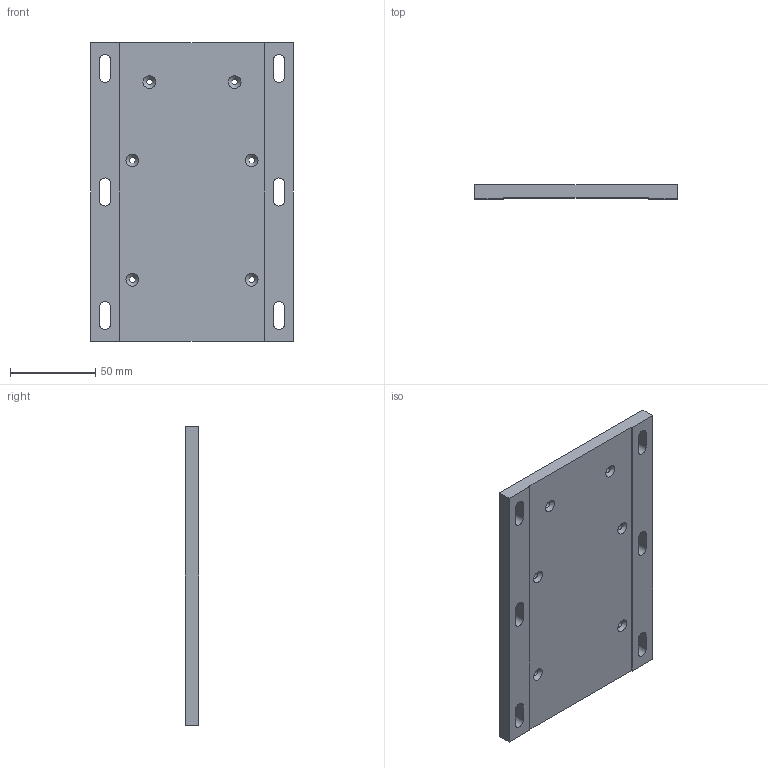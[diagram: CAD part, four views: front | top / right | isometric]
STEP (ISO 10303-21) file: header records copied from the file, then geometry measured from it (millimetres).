
FILE_DESCRIPTION(/* description */ (''),/* implementation_level */ '2;1');
FILE_NAME(/* name */ 'C:\Users\strothej\Documents\ActualDocuments\MicroscopeParts\TwoPhotonSystem\ScanningMechanics\v32\Drawings\Projection_Base_Plate.stp',/* time_stamp */ '2017-07-26T15:39:10-07:00',/* author */ ('strothej'),/* organization */ (''),/* preprocessor_version */ 'ST-DEVELOPER v16.1',/* originating_system */ 'Autodesk Inventor 2016',/* authorisation */ '');
FILE_SCHEMA (('AUTOMOTIVE_DESIGN { 1 0 10303 214 3 1 1 }'));
Length unit declared in the file: millimetre
Products named in the file (1): Projection_Base_Plate
Bounding box: 119 x 8 x 175 mm (x, y, z)
Volume: 153834.5 mm3; surface area: 47539.3 mm2
Topology: 1 solids, 1 shells, 46 faces, 132 edges, 88 vertices
Faces by surface type: plane 22, cylinder 18, cone 6
Full cylindrical faces by diameter (mm): 3.5 x6
Entity records: 1476 total; most frequent: DIRECTION 250, CARTESIAN_POINT 243, ORIENTED_EDGE 228, EDGE_CURVE 114, AXIS2_PLACEMENT_3D 89, EDGE_LOOP 82, VERTEX_POINT 82, LINE 72
